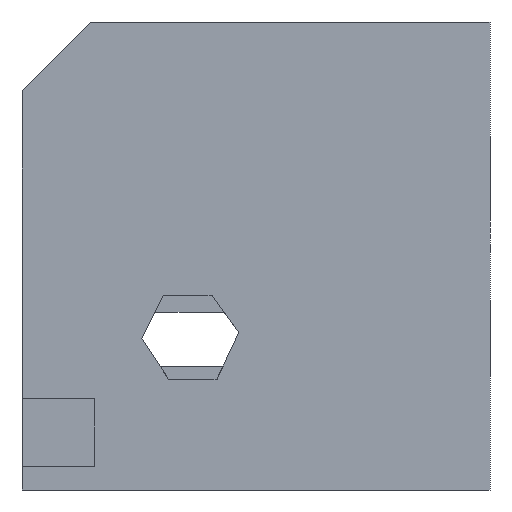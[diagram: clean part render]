
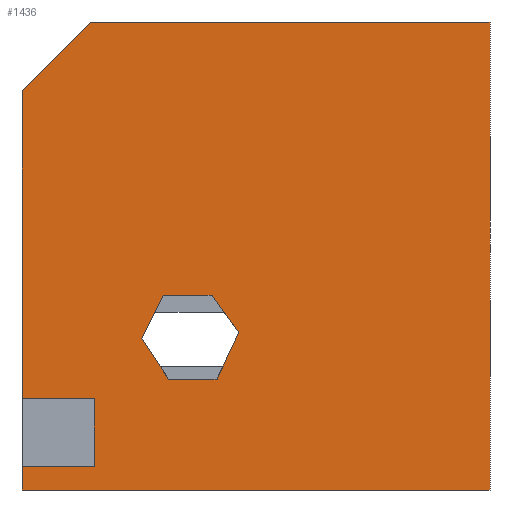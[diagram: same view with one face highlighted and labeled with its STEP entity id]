
A CAD part, left-side view. The second image highlights one B-rep face of the part: STEP entity #1436.
In plain terms, the highlighted planar face has unit normal (-1, 0, 0).
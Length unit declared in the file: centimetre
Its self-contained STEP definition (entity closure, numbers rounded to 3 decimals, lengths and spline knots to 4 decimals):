
#15 = VERTEX_POINT ( 'NONE', #827 ) ;
#60 = EDGE_LOOP ( 'NONE', ( #425, #1255, #1699, #1762, #1958, #507, #558, #1777, #2029 ) ) ;
#89 = LINE ( 'NONE', #1211, #1348 ) ;
#100 = VERTEX_POINT ( 'NONE', #1660 ) ;
#130 = VECTOR ( 'NONE', #146, 100. ) ;
#146 = DIRECTION ( 'NONE',  ( 0., 1., 0. ) ) ;
#160 = EDGE_CURVE ( 'NONE', #2062, #773, #654, .T. ) ;
#161 = CARTESIAN_POINT ( 'NONE',  ( 0., 1000., 852.989 ) ) ;
#206 = DIRECTION ( 'NONE',  ( 0., 0.579, 0.816 ) ) ;
#211 = EDGE_CURVE ( 'NONE', #464, #766, #89, .T. ) ;
#247 = CARTESIAN_POINT ( 'NONE',  ( 0., 852.989, 1000. ) ) ;
#256 = VECTOR ( 'NONE', #1691, 100. ) ;
#269 = CARTESIAN_POINT ( 'NONE',  ( 0., 687.0093, 236.948 ) ) ;
#287 = CARTESIAN_POINT ( 'NONE',  ( 0., 845.9006, 50.039 ) ) ;
#319 = DIRECTION ( 'NONE',  ( 0., 0., -1. ) ) ;
#324 = EDGE_CURVE ( 'NONE', #15, #1226, #1042, .T. ) ;
#349 = VERTEX_POINT ( 'NONE', #1270 ) ;
#370 = DIRECTION ( 'NONE',  ( 0., 0., -1. ) ) ;
#371 = CARTESIAN_POINT ( 'NONE',  ( 0., 1000., 1000. ) ) ;
#386 = CARTESIAN_POINT ( 'NONE',  ( 0., 0., 0. ) ) ;
#395 = EDGE_LOOP ( 'NONE', ( #1442, #1871, #1449, #1382, #1680, #904 ) ) ;
#421 = EDGE_CURVE ( 'NONE', #1023, #1402, #933, .T. ) ;
#425 = ORIENTED_EDGE ( 'NONE', *, *, #421, .F. ) ;
#437 = LINE ( 'NONE', #2059, #1049 ) ;
#454 = DIRECTION ( 'NONE',  ( 0., -0.425, 0.905 ) ) ;
#464 = VERTEX_POINT ( 'NONE', #790 ) ;
#485 = CARTESIAN_POINT ( 'NONE',  ( 0., 845.9006, 195.3283 ) ) ;
#498 = AXIS2_PLACEMENT_3D ( 'NONE', #1875, #1736, #1863 ) ;
#507 = ORIENTED_EDGE ( 'NONE', *, *, #1433, .F. ) ;
#516 = VERTEX_POINT ( 'NONE', #650 ) ;
#537 = EDGE_CURVE ( 'NONE', #100, #1226, #965, .T. ) ;
#555 = LINE ( 'NONE', #269, #1627 ) ;
#558 = ORIENTED_EDGE ( 'NONE', *, *, #1816, .T. ) ;
#567 = FACE_BOUND ( 'NONE', #395, .T. ) ;
#614 = EDGE_CURVE ( 'NONE', #773, #958, #1632, .T. ) ;
#650 = CARTESIAN_POINT ( 'NONE',  ( 0., 1000., 50.039 ) ) ;
#654 = LINE ( 'NONE', #1466, #1586 ) ;
#670 = VECTOR ( 'NONE', #1722, 100. ) ;
#690 = EDGE_CURVE ( 'NONE', #1402, #1001, #1619, .T. ) ;
#694 = DIRECTION ( 'NONE',  ( 0., 1., 0. ) ) ;
#729 = LINE ( 'NONE', #1210, #946 ) ;
#766 = VERTEX_POINT ( 'NONE', #2027 ) ;
#772 = VECTOR ( 'NONE', #1683, 100. ) ;
#773 = VERTEX_POINT ( 'NONE', #1993 ) ;
#790 = CARTESIAN_POINT ( 'NONE',  ( 0., 536.7464, 336.006 ) ) ;
#797 = PLANE ( 'NONE',  #498 ) ;
#818 = DIRECTION ( 'NONE',  ( 0., -0.55, -0.835 ) ) ;
#827 = CARTESIAN_POINT ( 'NONE',  ( 0., 1000., 0. ) ) ;
#864 = EDGE_CURVE ( 'NONE', #516, #15, #1857, .T. ) ;
#904 = ORIENTED_EDGE ( 'NONE', *, *, #614, .F. ) ;
#933 = LINE ( 'NONE', #287, #1620 ) ;
#946 = VECTOR ( 'NONE', #2033, 100. ) ;
#958 = VERTEX_POINT ( 'NONE', #1111 ) ;
#965 = LINE ( 'NONE', #996, #1757 ) ;
#996 = CARTESIAN_POINT ( 'NONE',  ( 0., 0., 1000. ) ) ;
#1001 = VERTEX_POINT ( 'NONE', #1557 ) ;
#1023 = VERTEX_POINT ( 'NONE', #1414 ) ;
#1042 = LINE ( 'NONE', #1370, #256 ) ;
#1049 = VECTOR ( 'NONE', #454, 100. ) ;
#1064 = FACE_OUTER_BOUND ( 'NONE', #60, .T. ) ;
#1075 = LINE ( 'NONE', #1409, #670 ) ;
#1106 = EDGE_CURVE ( 'NONE', #766, #2062, #1497, .T. ) ;
#1111 = CARTESIAN_POINT ( 'NONE',  ( 0., 687.0093, 236.948 ) ) ;
#1153 = CARTESIAN_POINT ( 'NONE',  ( 0., 744.2004, 323.7023 ) ) ;
#1156 = VECTOR ( 'NONE', #370, 100. ) ;
#1175 = CARTESIAN_POINT ( 'NONE',  ( 0., 1000., 1000. ) ) ;
#1210 = CARTESIAN_POINT ( 'NONE',  ( 0., 1000., 1000. ) ) ;
#1211 = CARTESIAN_POINT ( 'NONE',  ( 0., 536.7464, 336.006 ) ) ;
#1226 = VERTEX_POINT ( 'NONE', #386 ) ;
#1242 = DIRECTION ( 'NONE',  ( 0., 0., 1. ) ) ;
#1255 = ORIENTED_EDGE ( 'NONE', *, *, #1362, .F. ) ;
#1270 = CARTESIAN_POINT ( 'NONE',  ( 0., 583.2823, 236.948 ) ) ;
#1274 = VECTOR ( 'NONE', #818, 100. ) ;
#1305 = DIRECTION ( 'NONE',  ( 0., 0.448, -0.894 ) ) ;
#1317 = EDGE_CURVE ( 'NONE', #958, #349, #555, .T. ) ;
#1339 = VECTOR ( 'NONE', #694, 100. ) ;
#1348 = VECTOR ( 'NONE', #206, 100. ) ;
#1362 = EDGE_CURVE ( 'NONE', #516, #1023, #1075, .T. ) ;
#1370 = CARTESIAN_POINT ( 'NONE',  ( 0., 1000., 0. ) ) ;
#1371 = VERTEX_POINT ( 'NONE', #247 ) ;
#1382 = ORIENTED_EDGE ( 'NONE', *, *, #2082, .F. ) ;
#1391 = DIRECTION ( 'NONE',  ( 0., -1., 0. ) ) ;
#1402 = VERTEX_POINT ( 'NONE', #1610 ) ;
#1409 = CARTESIAN_POINT ( 'NONE',  ( 0., 845.9006, 50.039 ) ) ;
#1414 = CARTESIAN_POINT ( 'NONE',  ( 0., 845.9006, 50.039 ) ) ;
#1418 = CARTESIAN_POINT ( 'NONE',  ( 0., 852.989, 1000. ) ) ;
#1433 = EDGE_CURVE ( 'NONE', #1371, #100, #729, .T. ) ;
#1436 = ADVANCED_FACE ( 'NONE', ( #567, #1064 ), #797, .F. ) ;
#1442 = ORIENTED_EDGE ( 'NONE', *, *, #160, .F. ) ;
#1449 = ORIENTED_EDGE ( 'NONE', *, *, #211, .F. ) ;
#1466 = CARTESIAN_POINT ( 'NONE',  ( 0., 697.6646, 416.6084 ) ) ;
#1485 = VECTOR ( 'NONE', #1601, 100. ) ;
#1497 = LINE ( 'NONE', #1809, #1339 ) ;
#1557 = CARTESIAN_POINT ( 'NONE',  ( 0., 1000., 195.3283 ) ) ;
#1562 = VERTEX_POINT ( 'NONE', #161 ) ;
#1580 = LINE ( 'NONE', #1418, #1485 ) ;
#1586 = VECTOR ( 'NONE', #1305, 100. ) ;
#1601 = DIRECTION ( 'NONE',  ( 0., 0.707, -0.707 ) ) ;
#1610 = CARTESIAN_POINT ( 'NONE',  ( 0., 845.9006, 195.3283 ) ) ;
#1619 = LINE ( 'NONE', #485, #130 ) ;
#1620 = VECTOR ( 'NONE', #1242, 100. ) ;
#1627 = VECTOR ( 'NONE', #1391, 100. ) ;
#1632 = LINE ( 'NONE', #1153, #1274 ) ;
#1660 = CARTESIAN_POINT ( 'NONE',  ( 0., 0., 1000. ) ) ;
#1680 = ORIENTED_EDGE ( 'NONE', *, *, #1317, .F. ) ;
#1683 = DIRECTION ( 'NONE',  ( 0., 0., -1. ) ) ;
#1691 = DIRECTION ( 'NONE',  ( 0., -1., 0. ) ) ;
#1699 = ORIENTED_EDGE ( 'NONE', *, *, #864, .T. ) ;
#1708 = CARTESIAN_POINT ( 'NONE',  ( 0., 697.6646, 416.6084 ) ) ;
#1722 = DIRECTION ( 'NONE',  ( 0., -1., 0. ) ) ;
#1736 = DIRECTION ( 'NONE',  ( 1., 0., 0. ) ) ;
#1757 = VECTOR ( 'NONE', #319, 100. ) ;
#1762 = ORIENTED_EDGE ( 'NONE', *, *, #324, .T. ) ;
#1777 = ORIENTED_EDGE ( 'NONE', *, *, #1987, .T. ) ;
#1809 = CARTESIAN_POINT ( 'NONE',  ( 0., 593.9376, 416.6084 ) ) ;
#1816 = EDGE_CURVE ( 'NONE', #1371, #1562, #1580, .T. ) ;
#1836 = LINE ( 'NONE', #371, #772 ) ;
#1857 = LINE ( 'NONE', #1175, #1156 ) ;
#1863 = DIRECTION ( 'NONE',  ( 0., 0., -1. ) ) ;
#1871 = ORIENTED_EDGE ( 'NONE', *, *, #1106, .F. ) ;
#1875 = CARTESIAN_POINT ( 'NONE',  ( 0., 1000., 1000. ) ) ;
#1958 = ORIENTED_EDGE ( 'NONE', *, *, #537, .F. ) ;
#1987 = EDGE_CURVE ( 'NONE', #1562, #1001, #1836, .T. ) ;
#1993 = CARTESIAN_POINT ( 'NONE',  ( 0., 744.2004, 323.7023 ) ) ;
#2027 = CARTESIAN_POINT ( 'NONE',  ( 0., 593.9376, 416.6084 ) ) ;
#2029 = ORIENTED_EDGE ( 'NONE', *, *, #690, .F. ) ;
#2033 = DIRECTION ( 'NONE',  ( 0., -1., 0. ) ) ;
#2059 = CARTESIAN_POINT ( 'NONE',  ( 0., 583.2823, 236.948 ) ) ;
#2062 = VERTEX_POINT ( 'NONE', #1708 ) ;
#2082 = EDGE_CURVE ( 'NONE', #349, #464, #437, .T. ) ;
